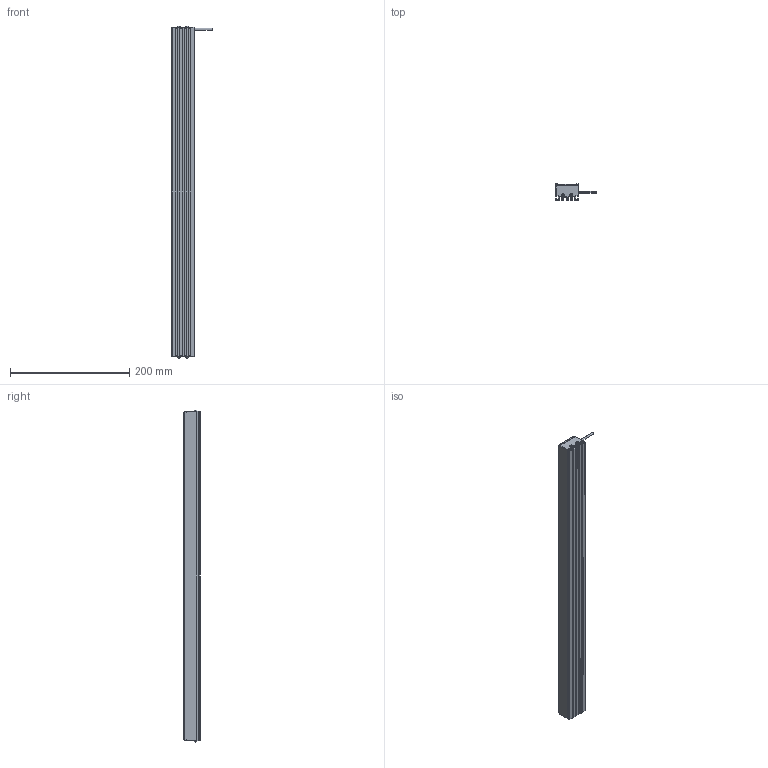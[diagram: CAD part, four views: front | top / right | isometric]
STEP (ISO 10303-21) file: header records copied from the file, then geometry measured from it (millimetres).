
FILE_DESCRIPTION((''),'2;1');
FILE_NAME('MV-LLDS-552-38_ASM','2020-12-30T',('Administrator'),(''),'PRO/ENGINEER BY PARAMETRIC TECHNOLOGY CORPORATION, 2010100','PRO/ENGINEER BY PARAMETRIC TECHNOLOGY CORPORATION, 2010100','');
FILE_SCHEMA(('CONFIG_CONTROL_DESIGN'));
Length unit declared in the file: millimetre
Products named in the file (3): BL-6_3_; M3-5_3; MV-LLDS-552-38_ASM
Assembly tree (5 placements, depth 2):
  MV-LLDS-552-38_ASM
    BL-6_3_
    M3-5_3  x4
Bounding box: 68 x 27 x 556.68 mm (x, y, z)
Volume: 461811.8 mm3; surface area: 133070.6 mm2
Topology: 5 solids, 13 shells, 349 faces, 934 edges, 604 vertices
Faces by surface type: plane 223, cylinder 78, cone 16, bspline 16, torus 8, sphere 8
Entity records: 8203 total; most frequent: CARTESIAN_POINT 1695, ORIENTED_EDGE 1338, DIRECTION 1310, EDGE_CURVE 679, VECTOR 514, LINE 514, VERTEX_POINT 445, AXIS2_PLACEMENT_3D 398
